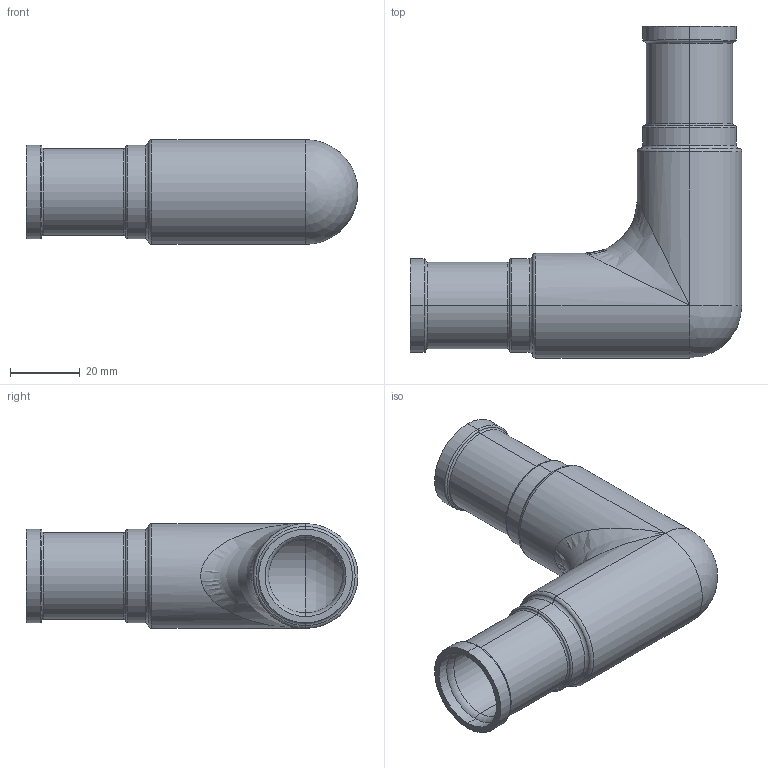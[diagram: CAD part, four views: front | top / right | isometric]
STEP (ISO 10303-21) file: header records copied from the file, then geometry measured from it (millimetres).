
FILE_DESCRIPTION (( 'STEP AP214' ), '1' );
FILE_NAME ('115.301.001.STEP', '2021-07-21T11:44:14', ( '' ), ( '' ), 'SwSTEP 2.0', 'SolidWorks 2018', '' );
FILE_SCHEMA (( 'AUTOMOTIVE_DESIGN' ));
Length unit declared in the file: millimetre
Products named in the file (1): 115.301.001
Bounding box: 95 x 95 x 30 mm (x, y, z)
Volume: 23768.1 mm3; surface area: 26676.3 mm2
Topology: 1 solids, 1 shells, 74 faces, 152 edges, 74 vertices
Faces by surface type: torus 36, cylinder 32, plane 2, sphere 2, bspline 2
Entity records: 2188 total; most frequent: CARTESIAN_POINT 601, DIRECTION 394, ORIENTED_EDGE 288, AXIS2_PLACEMENT_3D 181, EDGE_CURVE 144, CIRCLE 108, EDGE_LOOP 76, ADVANCED_FACE 74
